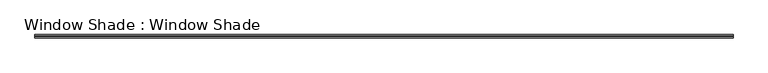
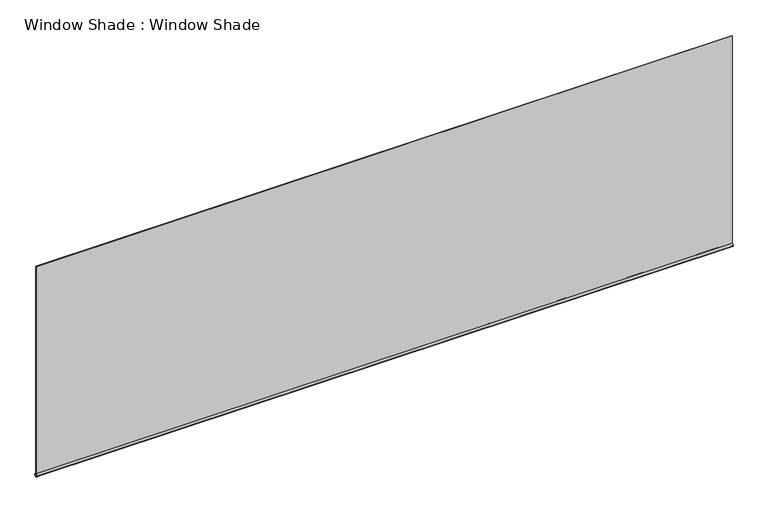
"""IFC4 building model written with IfcOpenShell, lengths in millimetres: furniture geometry, Window Shade : Window Shade."""

from ifc_helpers import new_model, si_unit, point, frame, frame_2d, origin, place, context, project, spatial, polyline, circle_curve, trimmed, segment, composite_curve, outline, extrude, source, transform, mapped, element, save


def window_shade_window_shade_56ae03ab(model_context):
    return source(origin(), model_context, "Body", "SweptSolid", [
        extrude(outline(polyline([(2624.7663221, 1.5875), (2624.7663221, -1.5875), (-2624.7663221, -1.5875), (-2624.7663221, 1.5875), (2624.7663221, 1.5875)])), frame((0.0, 0.0, 1993.8423026), z_axis=(0.0, 0.0, 1.0), x_axis=(1.0, 0.0, 0.0)), (0.0, 0.0, 1.0), 1663.7576974),
        extrude(outline(composite_curve([segment(trimmed(circle_curve(frame_2d((0.0, 1993.8423026)), 12.7), [point((-12.7, 1993.8423026))], [point((12.7, 1993.8423026))], False, "CARTESIAN"), True, "CONTINUOUS"), segment(trimmed(circle_curve(frame_2d((0.0, 1993.8423026)), 12.7), [point((12.7, 1993.8423026))], [point((-12.7, 1993.8423026))], False, "CARTESIAN"), True, "CONTINUOUS")], self_intersect=False)), frame((-2624.7663221, 0.0, 0.0), z_axis=(1.0, 0.0, 0.0), x_axis=(0.0, 1.0, 0.0)), (0.0, 0.0, 1.0), 5249.5326442),
    ])


if __name__ == "__main__":
    model = new_model("IFC4")
    model_context = context("Model", 3, world=origin())
    ifc_project = project(units=[si_unit("LENGTHUNIT", "METRE", prefix="MILLI")], contexts=[model_context])
    site = spatial("IfcSite", under=ifc_project)
    building = spatial("IfcBuilding", under=site)
    placement = place(None, origin())
    window_shade_window_shade_shape = window_shade_window_shade_56ae03ab(model_context)
    element("IfcFurniture", 1, ObjectType="Window Shade : Window Shade", at=placement, inside=building, context=model_context, shape_type="MappedRepresentation", body=[
        mapped(window_shade_window_shade_shape, transform((0.0, 0.0, 0.0), x_axis=(1.0, 0.0, 0.0), y_axis=(0.0, 1.0, 0.0), z_axis=(0.0, 0.0, 1.0))),
    ])
    save(model, "model.ifc")
